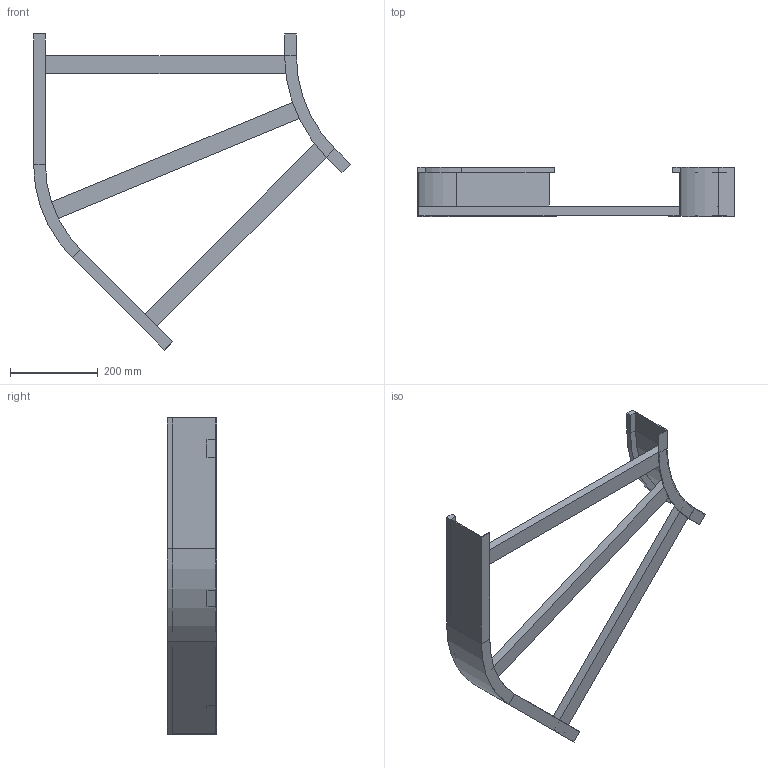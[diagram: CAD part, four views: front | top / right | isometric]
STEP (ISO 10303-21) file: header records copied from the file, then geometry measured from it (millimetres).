
FILE_DESCRIPTION (( 'STEP AP214' ), '1' );
FILE_NAME ('B2_11B3J600.step', '2025-02-21T15:15:00', ( '' ), ( '' ), 'SwSTEP 2.0', 'SolidWorks 2023', '' );
FILE_SCHEMA (( 'AUTOMOTIVE_DESIGN' ));
Length unit declared in the file: millimetre
Products named in the file (5): TRAVERSINO_600; B2_11B3J600; B2_LONGH.ESTERNO 45°_H112.5_R300+600; TRAVERSINO_L644; B2_LONGH.INTERNO 45°_H112.5_R300
Assembly tree (5 placements, depth 2):
  B2_11B3J600
    B2_LONGH.INTERNO 45°_H112.5_R300
    B2_LONGH.ESTERNO 45°_H112.5_R300+600
    TRAVERSINO_600  x2
    TRAVERSINO_L644
Bounding box: 723.22 x 112.5 x 721.75 mm (x, y, z)
Volume: 2032753.8 mm3; surface area: 592223.8 mm2
Topology: 5 solids, 5 shells, 70 faces, 148 edges, 88 vertices
Faces by surface type: plane 62, cylinder 8
Entity records: 1822 total; most frequent: DIRECTION 296, CARTESIAN_POINT 288, ORIENTED_EDGE 272, EDGE_CURVE 136, VECTOR 120, LINE 120, AXIS2_PLACEMENT_3D 88, VERTEX_POINT 80
